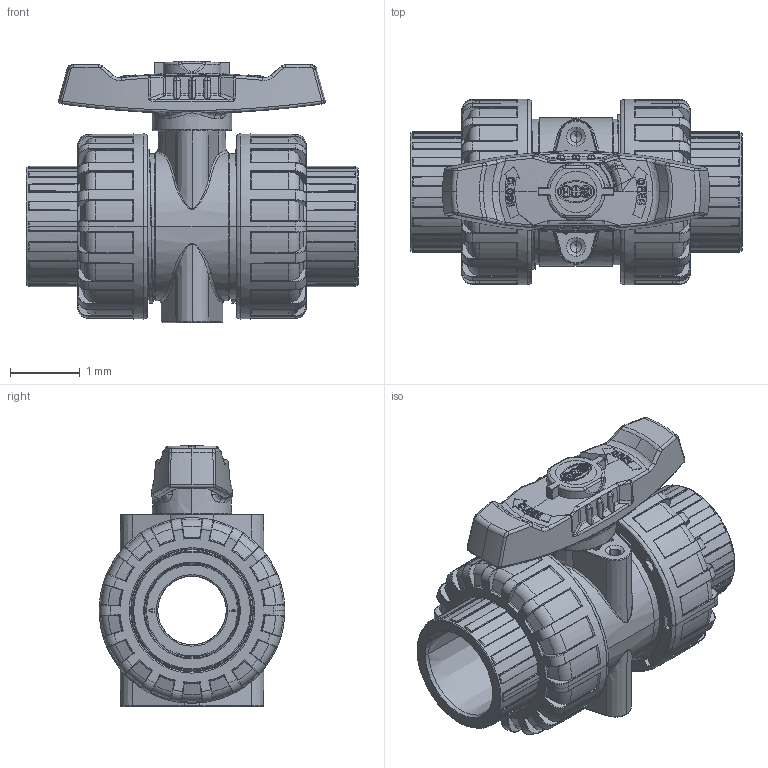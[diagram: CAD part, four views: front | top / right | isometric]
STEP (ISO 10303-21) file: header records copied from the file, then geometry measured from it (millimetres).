
FILE_DESCRIPTION(('Open CASCADE Model'),'2;1');
FILE_NAME('Open CASCADE Shape Model','2022-07-14T13:37:00',('Author'),( 'Open CASCADE'),'Open CASCADE STEP processor 7.3','Open CASCADE 7.3' ,'Unknown');
FILE_SCHEMA(('AUTOMOTIVE_DESIGN { 1 0 10303 214 1 1 1 1 }'));
Length unit declared in the file: millimetre
Products named in the file (18): Open CASCADE STEP translator 7.3 1; Open CASCADE STEP translator 7.3 1.1; Open CASCADE STEP translator 7.3 1.2; Open CASCADE STEP translator 7.3 1.3; Open CASCADE STEP translator 7.3 1.4; Open CASCADE STEP translator 7.3 1.5; Open CASCADE STEP translator 7.3 1.6; Open CASCADE STEP translator 7.3 1.7; Open CASCADE STEP translator 7.3 1.8; Open CASCADE STEP translator 7.3 1.9; Open CASCADE STEP translator 7.3 1.10; Open CASCADE STEP translator 7.3 1.11; Open CASCADE STEP translator 7.3 1.12; Open CASCADE STEP translator 7.3 1.13; Open CASCADE STEP translator 7.3 1.14; Open CASCADE STEP translator 7.3 1.15; Open CASCADE STEP translator 7.3 1.16; Open CASCADE STEP translator 7.3 1.17
Assembly tree (17 placements, depth 2):
  Open CASCADE STEP translator 7.3 1
    Open CASCADE STEP translator 7.3 1.1
    Open CASCADE STEP translator 7.3 1.2
    Open CASCADE STEP translator 7.3 1.3
    Open CASCADE STEP translator 7.3 1.4
    Open CASCADE STEP translator 7.3 1.5
    Open CASCADE STEP translator 7.3 1.6
    Open CASCADE STEP translator 7.3 1.7
    Open CASCADE STEP translator 7.3 1.8
    Open CASCADE STEP translator 7.3 1.9
    Open CASCADE STEP translator 7.3 1.10
    Open CASCADE STEP translator 7.3 1.11
    Open CASCADE STEP translator 7.3 1.12
    Open CASCADE STEP translator 7.3 1.13
    Open CASCADE STEP translator 7.3 1.14
    Open CASCADE STEP translator 7.3 1.15
    Open CASCADE STEP translator 7.3 1.16
    Open CASCADE STEP translator 7.3 1.17
Bounding box: 4.75 x 2.66 x 3.74 mm (x, y, z)
Volume: 14.8 mm3; surface area: 186.7 mm2
Topology: 17 solids, 17 shells, 2675 faces, 6776 edges, 4156 vertices
Faces by surface type: plane 672, bspline 666, cylinder 404, torus 398, cone 389, sphere 140, revolution 6
Entity records: 321007 total; most frequent: CARTESIAN_POINT 203963, DIRECTION 16699, ORIENTED_EDGE 13368, PCURVE 13368, DEFINITIONAL_REPRESENTATION 13368, B_SPLINE_CURVE_WITH_KNOTS 9252, LINE 7016, VECTOR 7016
